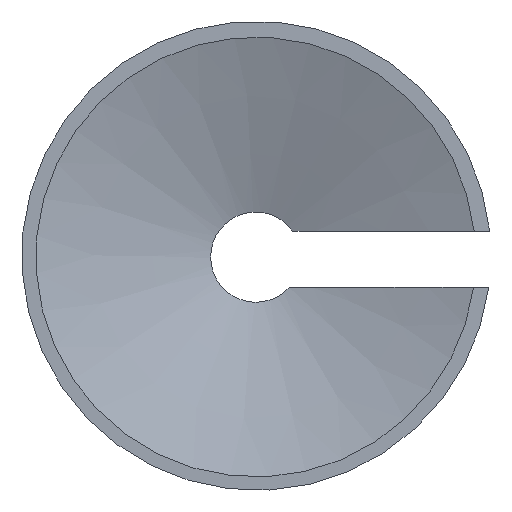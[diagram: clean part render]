
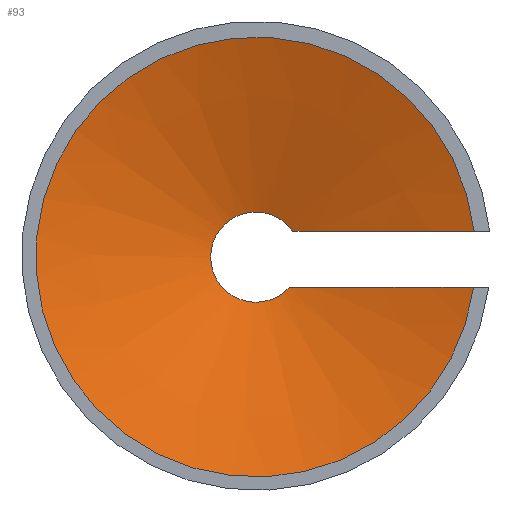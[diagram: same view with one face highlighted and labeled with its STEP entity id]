
A CAD part, top view. The second image highlights one B-rep face of the part: STEP entity #93.
In plain terms, the highlighted conical face has half-angle 71.451 degrees and reference radius 37.5 mm.
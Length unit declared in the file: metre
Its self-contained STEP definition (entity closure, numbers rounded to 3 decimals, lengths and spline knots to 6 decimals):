
#12=CONICAL_SURFACE('',#115,0.0375,1.247);
#15=B_SPLINE_CURVE_WITH_KNOTS('',3,(#430,#431,#432,#433,#434,#435,#436),
 .UNSPECIFIED.,.F.,.F.,(4,1,1,1,4),(0.007679,0.015891,
0.024103,0.032315,0.040527),.UNSPECIFIED.);
#16=B_SPLINE_CURVE_WITH_KNOTS('',3,(#437,#438,#439,#440,#441,#442),
 .UNSPECIFIED.,.F.,.F.,(4,1,1,4),(0.008322,0.016408,
0.024495,0.040668),.UNSPECIFIED.);
#38=ORIENTED_EDGE('',*,*,#60,.F.);
#39=ORIENTED_EDGE('',*,*,#55,.T.);
#40=ORIENTED_EDGE('',*,*,#61,.T.);
#41=ORIENTED_EDGE('',*,*,#52,.F.);
#52=EDGE_CURVE('',#64,#65,#71,.F.);
#55=EDGE_CURVE('',#68,#66,#72,.F.);
#60=EDGE_CURVE('',#68,#64,#15,.T.);
#61=EDGE_CURVE('',#66,#65,#16,.T.);
#64=VERTEX_POINT('',#148);
#65=VERTEX_POINT('',#150);
#66=VERTEX_POINT('',#154);
#68=VERTEX_POINT('',#157);
#71=CIRCLE('',#111,0.0375);
#72=CIRCLE('',#113,0.007697);
#77=EDGE_LOOP('',(#38,#39,#40,#41));
#83=FACE_BOUND('',#77,.T.);
#93=ADVANCED_FACE('',(#83),#12,.F.);
#111=AXIS2_PLACEMENT_3D('',#149,#125,#126);
#113=AXIS2_PLACEMENT_3D('',#156,#131,#132);
#115=AXIS2_PLACEMENT_3D('',#429,#136,#137);
#125=DIRECTION('',(0.,0.,1.));
#126=DIRECTION('',(1.,0.,0.));
#131=DIRECTION('',(0.,0.,1.));
#132=DIRECTION('',(1.,0.,0.));
#136=DIRECTION('',(0.,0.,1.));
#137=DIRECTION('',(1.,0.,0.));
#148=CARTESIAN_POINT('',(-0.098082,0.,-0.046));
#149=CARTESIAN_POINT('',(-0.135222,0.005182,-0.046));
#150=CARTESIAN_POINT('',(-0.097983,0.009603,-0.046));
#154=CARTESIAN_POINT('',(-0.12892,0.009603,-0.056));
#156=CARTESIAN_POINT('',(-0.135222,0.005182,-0.056));
#157=CARTESIAN_POINT('',(-0.129531,0.,-0.056));
#429=CARTESIAN_POINT('',(-0.135222,0.005182,-0.046));
#430=CARTESIAN_POINT('',(-0.129531,0.,-0.056));
#431=CARTESIAN_POINT('',(-0.126859,0.,-0.055337));
#432=CARTESIAN_POINT('',(-0.121605,0.,-0.05371));
#433=CARTESIAN_POINT('',(-0.113751,0.,-0.051182));
#434=CARTESIAN_POINT('',(-0.105914,0.,-0.048599));
#435=CARTESIAN_POINT('',(-0.100692,0.,-0.046867));
#436=CARTESIAN_POINT('',(-0.098082,0.,-0.046));
#437=CARTESIAN_POINT('',(-0.12892,0.009603,-0.056));
#438=CARTESIAN_POINT('',(-0.126308,0.009603,-0.055282));
#439=CARTESIAN_POINT('',(-0.121143,0.009603,-0.053642));
#440=CARTESIAN_POINT('',(-0.110838,0.009603,-0.050283));
#441=CARTESIAN_POINT('',(-0.103125,0.009603,-0.047713));
#442=CARTESIAN_POINT('',(-0.097983,0.009603,-0.046));
